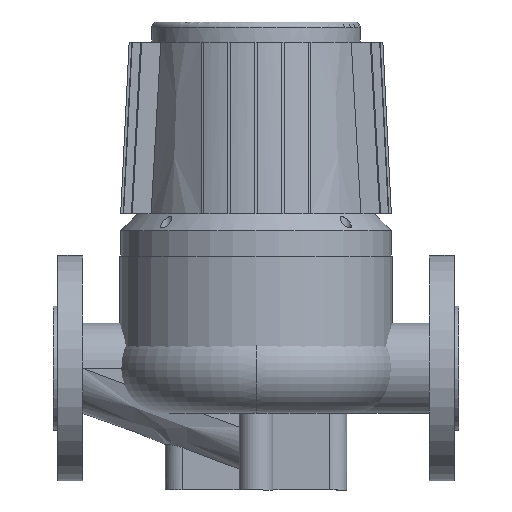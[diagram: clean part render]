
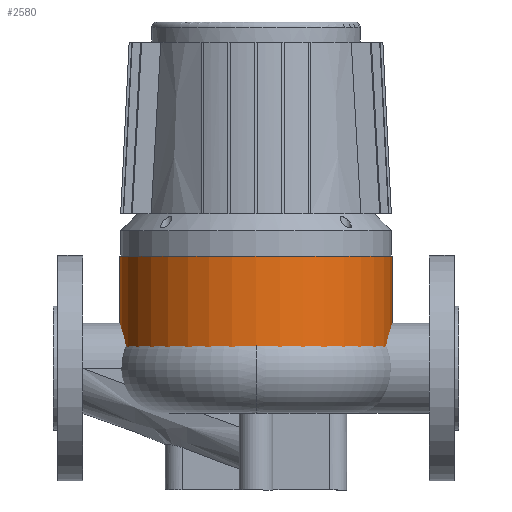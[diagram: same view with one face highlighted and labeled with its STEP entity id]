
A CAD part, front view. The second image highlights one B-rep face of the part: STEP entity #2580.
In plain terms, the highlighted cylindrical face has radius 121 mm (diameter 242 mm), a partial arc.
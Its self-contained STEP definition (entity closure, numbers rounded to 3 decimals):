
#291=FACE_OUTER_BOUND('',#458,.T.);
#458=EDGE_LOOP('',(#1751,#1752,#1753,#1754));
#633=LINE('',#3710,#817);
#634=LINE('',#3713,#818);
#817=VECTOR('',#3026,304.8);
#818=VECTOR('',#3029,304.8);
#1003=CIRCLE('',#2775,121.);
#1004=CIRCLE('',#2776,121.);
#1099=VERTEX_POINT('',#3706);
#1100=VERTEX_POINT('',#3707);
#1101=VERTEX_POINT('',#3709);
#1102=VERTEX_POINT('',#3711);
#1347=EDGE_CURVE('',#1101,#1099,#633,.T.);
#1349=EDGE_CURVE('',#1100,#1102,#634,.T.);
#1350=EDGE_CURVE('',#1100,#1099,#1003,.T.);
#1351=EDGE_CURVE('',#1101,#1102,#1004,.T.);
#1751=ORIENTED_EDGE('',*,*,#1350,.F.);
#1752=ORIENTED_EDGE('',*,*,#1349,.T.);
#1753=ORIENTED_EDGE('',*,*,#1351,.F.);
#1754=ORIENTED_EDGE('',*,*,#1347,.T.);
#2550=CYLINDRICAL_SURFACE('',#2774,121.);
#2580=ADVANCED_FACE('',(#291),#2550,.T.);
#2774=AXIS2_PLACEMENT_3D('',#3714,#3030,#3031);
#2775=AXIS2_PLACEMENT_3D('',#3715,#3032,#3033);
#2776=AXIS2_PLACEMENT_3D('',#3716,#3034,#3035);
#3026=DIRECTION('',(0.,0.,1.));
#3029=DIRECTION('',(0.,0.,-1.));
#3030=DIRECTION('center_axis',(0.,0.,1.));
#3031=DIRECTION('ref_axis',(1.,0.,0.));
#3032=DIRECTION('center_axis',(0.,0.,1.));
#3033=DIRECTION('ref_axis',(1.,0.,0.));
#3034=DIRECTION('center_axis',(0.,0.,-1.));
#3035=DIRECTION('ref_axis',(1.,0.,0.));
#3706=CARTESIAN_POINT('',(26489.617,-40481.239,99.5));
#3707=CARTESIAN_POINT('',(26247.617,-40481.239,99.5));
#3709=CARTESIAN_POINT('',(26489.617,-40481.239,0.));
#3710=CARTESIAN_POINT('',(26489.617,-40481.239,0.));
#3711=CARTESIAN_POINT('',(26247.617,-40481.239,0.));
#3713=CARTESIAN_POINT('',(26247.617,-40481.239,99.5));
#3714=CARTESIAN_POINT('Origin',(26368.617,-40481.239,0.));
#3715=CARTESIAN_POINT('Origin',(26368.617,-40481.239,99.5));
#3716=CARTESIAN_POINT('Origin',(26368.617,-40481.239,0.));
